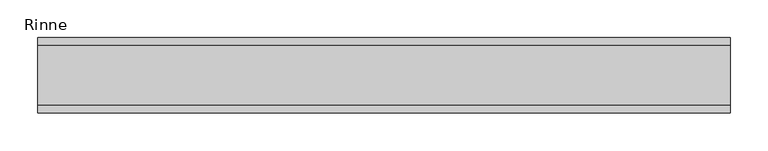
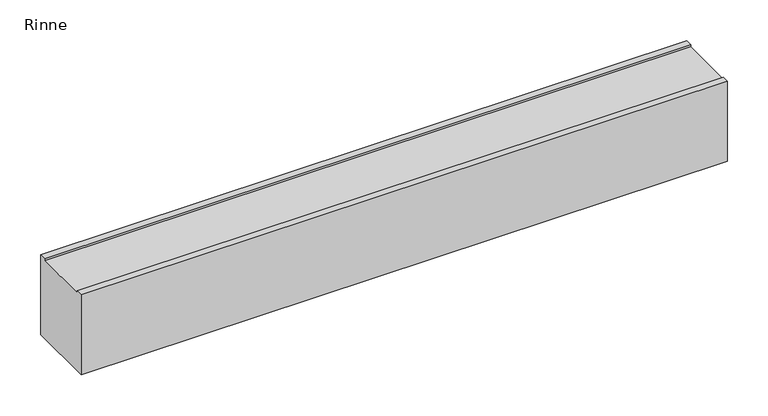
"""IFC4 building model written with IfcOpenShell, lengths in millimetres: railing geometry, Rinne."""

from ifc_helpers import new_model, si_unit, frame, origin, place, context, project, spatial, polyline, outline, extrude, source, transform, mapped, element, save


def rinne_cb473c72(model_context):
    return source(origin(), model_context, "Body", "SweptSolid", [
        extrude(outline(polyline([(-109925.6236446, -120.0), (-110025.6236446, -120.0), (-110025.6236446, 0.0), (-110015.6236446, 0.0), (-110015.6236446, -3.0), (-109935.6236446, -3.0), (-109935.6236446, 0.0), (-109925.6236446, 0.0), (-109925.6236446, -120.0)])), frame((55609.4343424, 0.0, 0.0), z_axis=(1.0, 0.0, 0.0), x_axis=(0.0, 1.0, 0.0)), (0.0, 0.0, 1.0), 917.0),
    ])


if __name__ == "__main__":
    model = new_model("IFC4")
    model_context = context("Model", 3, world=origin())
    ifc_project = project(units=[si_unit("LENGTHUNIT", "METRE", prefix="MILLI")], contexts=[model_context])
    site = spatial("IfcSite", under=ifc_project)
    building = spatial("IfcBuilding", under=site)
    placement = place(None, origin())
    rinne_shape = rinne_cb473c72(model_context)
    element("IfcRailing", 1, ObjectType="Rinne", at=placement, inside=building, context=model_context, shape_type="MappedRepresentation", body=[
        mapped(rinne_shape, transform((0.0, 0.0, 0.0), x_axis=(1.0, 0.0, 0.0), y_axis=(0.0, 1.0, 0.0), z_axis=(0.0, 0.0, 1.0))),
    ])
    save(model, "model.ifc")
